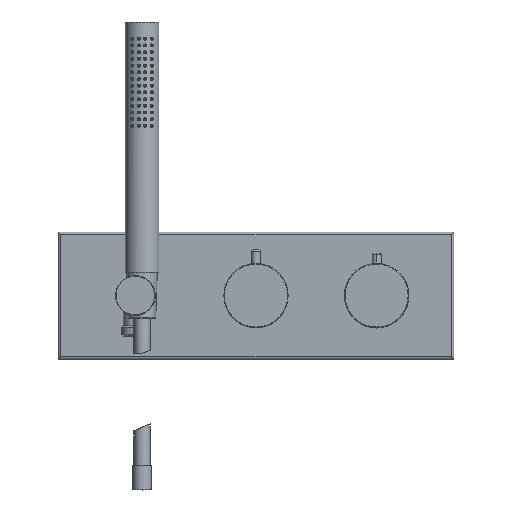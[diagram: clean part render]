
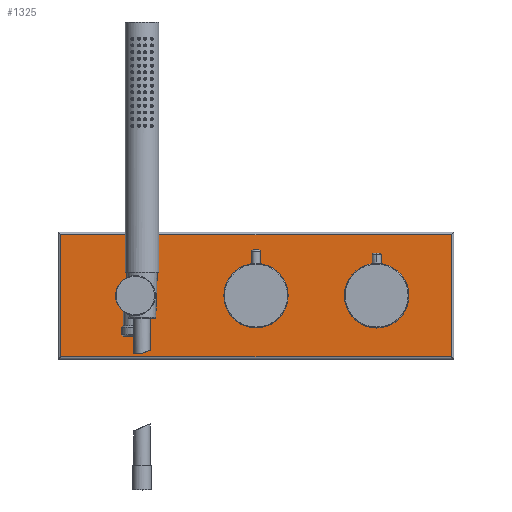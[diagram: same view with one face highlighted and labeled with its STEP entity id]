
A CAD part, top view. The second image highlights one B-rep face of the part: STEP entity #1325.
In plain terms, the highlighted planar face has unit normal (0, 0, 1).
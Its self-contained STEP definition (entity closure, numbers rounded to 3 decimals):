
#112=CARTESIAN_POINT('',(0.,0.,7.));
#113=DIRECTION('',(0.,0.,-1.));
#114=DIRECTION('',(-1.,0.,0.));
#115=AXIS2_PLACEMENT_3D('',#112,#113,#114);
#120=CARTESIAN_POINT('',(0.,0.,7.));
#121=DIRECTION('',(0.,0.,-1.));
#122=DIRECTION('',(1.,0.,0.));
#123=AXIS2_PLACEMENT_3D('',#120,#121,#122);
#128=CARTESIAN_POINT('',(0.,-90.,7.));
#129=DIRECTION('',(0.,0.,-1.));
#130=DIRECTION('',(-1.,0.,0.));
#131=AXIS2_PLACEMENT_3D('',#128,#129,#130);
#136=CARTESIAN_POINT('',(0.,-90.,7.));
#137=DIRECTION('',(0.,0.,-1.));
#138=DIRECTION('',(1.,0.,0.));
#139=AXIS2_PLACEMENT_3D('',#136,#137,#138);
#144=CARTESIAN_POINT('',(0.,90.,7.));
#145=DIRECTION('',(0.,0.,-1.));
#146=DIRECTION('',(-1.,0.,0.));
#147=AXIS2_PLACEMENT_3D('',#144,#145,#146);
#152=CARTESIAN_POINT('',(0.,90.,7.));
#153=DIRECTION('',(0.,0.,-1.));
#154=DIRECTION('',(1.,0.,0.));
#155=AXIS2_PLACEMENT_3D('',#152,#153,#154);
#160=DIRECTION('',(1.,0.,0.));
#161=VECTOR('',#160,91.);
#162=CARTESIAN_POINT('',(-45.5,-145.5,7.));
#163=LINE('',#162,#161);
#167=DIRECTION('',(0.,-1.,0.));
#168=VECTOR('',#167,291.);
#169=CARTESIAN_POINT('',(-45.5,145.5,7.));
#170=LINE('',#169,#168);
#174=DIRECTION('',(-1.,0.,0.));
#175=VECTOR('',#174,91.);
#176=CARTESIAN_POINT('',(45.5,145.5,7.));
#177=LINE('',#176,#175);
#181=DIRECTION('',(0.,1.,0.));
#182=VECTOR('',#181,291.);
#183=CARTESIAN_POINT('',(45.5,-145.5,7.));
#184=LINE('',#183,#182);
#1044=CARTESIAN_POINT('',(-20.75,0.,7.));
#1046=VERTEX_POINT('',#1044);
#1048=CARTESIAN_POINT('',(20.75,0.,7.));
#1050=VERTEX_POINT('',#1048);
#1052=CARTESIAN_POINT('',(-24.1,-90.,7.));
#1054=VERTEX_POINT('',#1052);
#1056=CARTESIAN_POINT('',(24.1,-90.,7.));
#1058=VERTEX_POINT('',#1056);
#1151=CARTESIAN_POINT('',(-45.5,-145.5,7.));
#1152=CARTESIAN_POINT('',(45.5,-145.5,7.));
#1153=VERTEX_POINT('',#1151);
#1154=VERTEX_POINT('',#1152);
#1157=CARTESIAN_POINT('',(-45.5,145.5,7.));
#1158=VERTEX_POINT('',#1157);
#1161=CARTESIAN_POINT('',(45.5,145.5,7.));
#1162=VERTEX_POINT('',#1161);
#1163=CARTESIAN_POINT('',(-10.5,90.,7.));
#1164=CARTESIAN_POINT('',(10.5,90.,7.));
#1165=VERTEX_POINT('',#1163);
#1166=VERTEX_POINT('',#1164);
#1294=CARTESIAN_POINT('',(0.,0.,7.));
#1295=DIRECTION('',(0.,0.,1.));
#1296=DIRECTION('',(0.,-1.,0.));
#1297=AXIS2_PLACEMENT_3D('',#1294,#1295,#1296);
#1298=PLANE('',#1297);
#1300=ORIENTED_EDGE('',*,*,#1299,.F.);
#1302=ORIENTED_EDGE('',*,*,#1301,.F.);
#1303=ORIENTED_EDGE('',*,*,#1258,.F.);
#1304=ORIENTED_EDGE('',*,*,#1277,.F.);
#1305=EDGE_LOOP('',(#1300,#1302,#1303,#1304));
#1306=FACE_OUTER_BOUND('',#1305,.F.);
#1308=ORIENTED_EDGE('',*,*,#1307,.F.);
#1310=ORIENTED_EDGE('',*,*,#1309,.F.);
#1311=EDGE_LOOP('',(#1308,#1310));
#1312=FACE_BOUND('',#1311,.F.);
#1314=ORIENTED_EDGE('',*,*,#1313,.F.);
#1316=ORIENTED_EDGE('',*,*,#1315,.F.);
#1317=EDGE_LOOP('',(#1314,#1316));
#1318=FACE_BOUND('',#1317,.F.);
#1320=ORIENTED_EDGE('',*,*,#1319,.F.);
#1322=ORIENTED_EDGE('',*,*,#1321,.F.);
#1323=EDGE_LOOP('',(#1320,#1322));
#1324=FACE_BOUND('',#1323,.F.);
#116=CIRCLE('',#115,20.75);
#124=CIRCLE('',#123,20.75);
#132=CIRCLE('',#131,24.1);
#140=CIRCLE('',#139,24.1);
#148=CIRCLE('',#147,10.5);
#156=CIRCLE('',#155,10.5);
#1258=EDGE_CURVE('',#1162,#1158,#177,.T.);
#1277=EDGE_CURVE('',#1154,#1162,#184,.T.);
#1299=EDGE_CURVE('',#1153,#1154,#163,.T.);
#1301=EDGE_CURVE('',#1158,#1153,#170,.T.);
#1307=EDGE_CURVE('',#1054,#1058,#132,.T.);
#1309=EDGE_CURVE('',#1058,#1054,#140,.T.);
#1313=EDGE_CURVE('',#1165,#1166,#148,.T.);
#1315=EDGE_CURVE('',#1166,#1165,#156,.T.);
#1319=EDGE_CURVE('',#1046,#1050,#116,.T.);
#1321=EDGE_CURVE('',#1050,#1046,#124,.T.);
#1325=ADVANCED_FACE('',(#1306,#1312,#1318,#1324),#1298,.T.);
